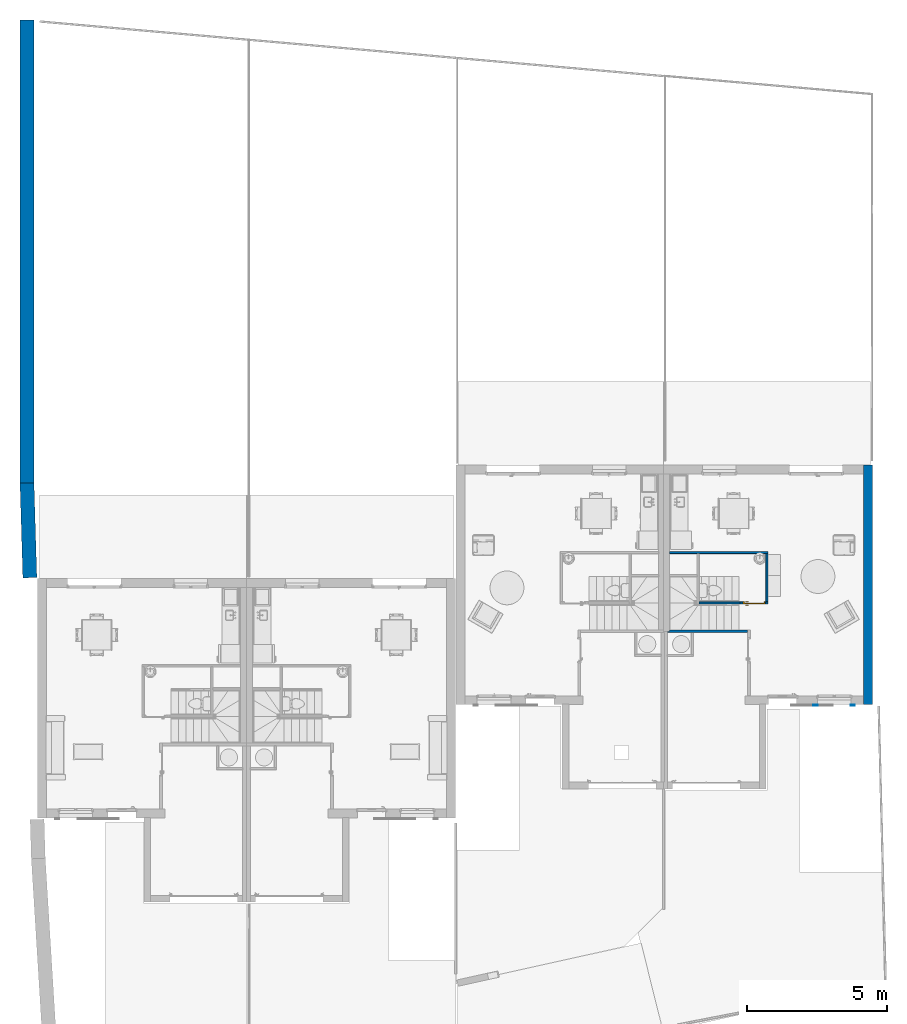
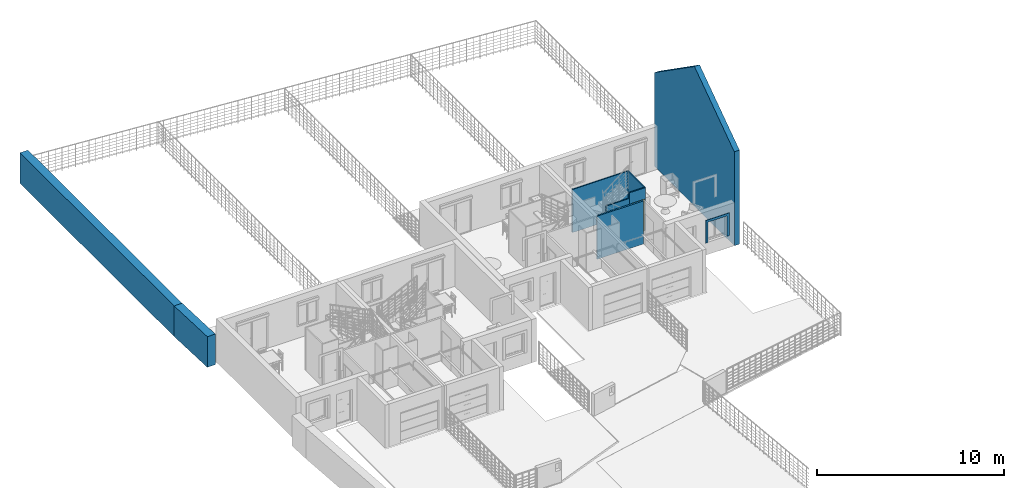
# One storey, part 21 of 30: 9 walls, 1 door, 2 openings.
"""IFC2X3 building model written with IfcOpenShell, lengths in metres."""

from ifc_helpers import new_model, entity, si_unit, converted_unit, derived_unit, direction, frame, frame_2d, origin, place, context, subcontext, project, spatial, polyline, rectangle, outline, extrude, clip, bounded_halfspace, faceted_brep, source, transform, mapped, material, material_list, layer, layer_set, layer_usage, type_object, type_shapes, element, fill, save


model = new_model("IFC2X3")

# Units and contexts
model_context = context("Model", 3, precision=1e-05, world=origin(), true_north=direction((6.12303176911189e-17, 1.0)))
body_context = subcontext(model_context, "Body", "Model", "MODEL_VIEW")
ifc_project = project(units=[si_unit("LENGTHUNIT", "METRE"), si_unit("AREAUNIT", "SQUARE_METRE"), si_unit("VOLUMEUNIT", "CUBIC_METRE"), converted_unit("PLANEANGLEUNIT", "DEGREE", entity("IfcRatioMeasure", 0.0174532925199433), si_unit("PLANEANGLEUNIT", "RADIAN"), dimensions=[0, 0, 0, 0, 0, 0, 0]), si_unit("MASSUNIT", "GRAM", prefix="KILO"), derived_unit("MASSDENSITYUNIT", [(si_unit("MASSUNIT", "GRAM", prefix="KILO"), 1), (si_unit("LENGTHUNIT", "METRE"), -3)]), si_unit("TIMEUNIT", "SECOND"), si_unit("FREQUENCYUNIT", "HERTZ"), si_unit("THERMODYNAMICTEMPERATUREUNIT", "DEGREE_CELSIUS"), derived_unit("THERMALTRANSMITTANCEUNIT", [(si_unit("MASSUNIT", "GRAM", prefix="KILO"), 1), (si_unit("THERMODYNAMICTEMPERATUREUNIT", "KELVIN"), -1), (si_unit("TIMEUNIT", "SECOND"), -3)]), derived_unit("VOLUMETRICFLOWRATEUNIT", [(si_unit("LENGTHUNIT", "METRE"), 3), (si_unit("TIMEUNIT", "SECOND"), -1)]), si_unit("ELECTRICCURRENTUNIT", "AMPERE"), si_unit("ELECTRICVOLTAGEUNIT", "VOLT"), si_unit("POWERUNIT", "WATT"), si_unit("FORCEUNIT", "NEWTON", prefix="KILO"), si_unit("ILLUMINANCEUNIT", "LUX"), si_unit("LUMINOUSFLUXUNIT", "LUMEN"), si_unit("LUMINOUSINTENSITYUNIT", "CANDELA"), derived_unit("USERDEFINED", [(si_unit("MASSUNIT", "GRAM", prefix="KILO"), -1), (si_unit("LENGTHUNIT", "METRE"), -2), (si_unit("TIMEUNIT", "SECOND"), 3), (si_unit("LUMINOUSFLUXUNIT", "LUMEN"), 1)]), derived_unit("LINEARVELOCITYUNIT", [(si_unit("LENGTHUNIT", "METRE"), 1), (si_unit("TIMEUNIT", "SECOND"), -1)]), si_unit("PRESSUREUNIT", "PASCAL"), derived_unit("USERDEFINED", [(si_unit("LENGTHUNIT", "METRE"), -2), (si_unit("MASSUNIT", "GRAM", prefix="KILO"), 1), (si_unit("TIMEUNIT", "SECOND"), -2)])], contexts=[model_context])

# Site, building, storey
site_placement = place(None, origin())
site = spatial("IfcSite", under=ifc_project, at=site_placement, Name="Surface", CompositionType="ELEMENT")
building_placement = place(site_placement, origin())
building = spatial("IfcBuilding", under=site, at=building_placement, CompositionType="ELEMENT")
storey_placement = place(building_placement, origin())
storey = spatial("IfcBuildingStorey", under=building, at=storey_placement, Name="Plan des fondations  Maisons 1 et 2", CompositionType="ELEMENT", Elevation=0.0)

# Walls
ifc_material_1 = material(Name="Enduit blanc cassé2")
ifc_layer_1 = layer(ifc_material_1, 0.02)
ifc_material_2 = material(Name="Parpaing")
ifc_layer_2 = layer(ifc_material_2, 0.2)
ifc_material_3 = material(Name="Isolant")
ifc_layer_3 = layer(ifc_material_3, 0.1)
ifc_layer_set_1 = layer_set([ifc_layer_1, ifc_layer_2, ifc_layer_3], Name="Mur de base:Ext. Parpaing 20 + Isolant 10 enduit blanc cassé")
ifc_layer_usage_1 = layer_usage(ifc_layer_set_1, "AXIS2", "POSITIVE", -0.16)
wall_type_1 = type_object("IfcWallType", Name="Mur de base:Ext. Parpaing 20 + Isolant 10 enduit blanc cassé", PredefinedType="STANDARD", material=ifc_layer_set_1)
wall_1_placement = place(building_placement, frame((90.9950487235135, 83.9275239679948, 0.0), z_axis=(0.0, 0.0, 1.0), x_axis=(0.0, 1.0, 0.0)))
element("IfcWallStandardCase", 1, at=wall_1_placement, inside=storey, type_object=wall_type_1, material=ifc_layer_usage_1, Name="Mur de base:Ext. Parpaing 20 + Isolant 10 enduit blanc cassé", ObjectType="Mur de base:Ext. Parpaing 20 + Isolant 10 enduit blanc cassé", context=body_context, shape_type="Clipping", body=[
    clip(clip(extrude(rectangle(XDim=8.54, YDim=0.319999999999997, at=frame_2d((4.27, 9.85322934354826e-16), x_axis=(-1.0, 0.0))), origin(), (0.0, 0.0, 1.0), 9.12988618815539), bounded_halfspace(frame((4.26999999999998, -0.15999999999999, 9.12988618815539), z_axis=(0.573576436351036, 0.0, 0.819152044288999), x_axis=(0.0, 1.0, 0.0)), False, frame((4.26999999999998, -0.15999999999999, 9.12988618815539)), polyline([(0.0, 0.0), (4.27000000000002, 0.0), (4.27000000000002, 0.319999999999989), (3.95000000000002, 0.319999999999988), (0.0, 0.319999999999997), (0.0, 0.0)]))), bounded_halfspace(frame((0.0, -0.159999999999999, 6.13999999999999), z_axis=(-0.573576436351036, 0.0, 0.819152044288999), x_axis=(0.0, -1.0, 0.0)), False, frame((0.0, -0.159999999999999, 6.13999999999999)), polyline([(0.0, 0.0), (4.26999999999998, 0.0), (4.26999999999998, 0.320000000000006), (0.0, 0.319999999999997), (0.0, 0.0)]))),
])
ifc_material_4 = material(Name="Peinture - Blanc")
ifc_layer_4 = layer(ifc_material_4, 0.1)
ifc_layer_set_2 = layer_set([ifc_layer_4], Name="Mur de base:Int.  Platre 100 mm en blanc 2")
ifc_layer_usage_2 = layer_usage(ifc_layer_set_2, "AXIS2", "NEGATIVE", 0.05)
wall_type_2 = type_object("IfcWallType", Name="Mur de base:Int.  Platre 100 mm en blanc 2", PredefinedType="STANDARD", material=ifc_layer_set_2)
wall_2_placement = place(building_placement, frame((86.7067857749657, 86.5475239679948, 0.0), z_axis=(0.0, 0.0, 1.0), x_axis=(-1.0, 0.0, 0.0)))
element("IfcWallStandardCase", 2, at=wall_2_placement, inside=storey, type_object=wall_type_2, material=ifc_layer_usage_2, Name="Mur de base:Int.  Platre 100 mm en blanc 2", ObjectType="Mur de base:Int.  Platre 100 mm en blanc 2", context=body_context, shape_type="SweptSolid", body=[
    extrude(outline(polyline([(2.78000000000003, -0.0499999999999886), (2.78000000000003, 0.0), (2.86500000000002, 0.0), (2.86500000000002, 0.050000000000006), (2.00500000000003, 0.050000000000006), (1.93500000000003, 0.050000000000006), (0.0, 0.050000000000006), (0.0, -0.0499999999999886), (2.78000000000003, -0.0499999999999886)])), origin(), (0.0, 0.0, 1.0), 2.82),
])
ifc_layer_5 = layer(ifc_material_4, 0.07)
ifc_layer_set_3 = layer_set([ifc_layer_5], Name="Mur de base:Int.  Platre 70 mm en blanc")
ifc_layer_usage_3 = layer_usage(ifc_layer_set_3, "AXIS2", "NEGATIVE", 0.035)
wall_type_3 = type_object("IfcWallType", Name="Mur de base:Int.  Platre 70 mm en blanc", PredefinedType="STANDARD", material=ifc_layer_set_3)
wall_3_placement = place(storey_placement, frame((83.9267857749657, 89.3525239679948, 0.0)))
element("IfcWallStandardCase", 3, at=wall_3_placement, inside=storey, type_object=wall_type_3, material=ifc_layer_usage_3, Name="Mur de base:Int.  Platre 70 mm en blanc", ObjectType="Mur de base:Int.  Platre 70 mm en blanc", context=body_context, shape_type="SweptSolid", body=[
    extrude(rectangle(XDim=3.50211659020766, YDim=0.0699999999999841, at=frame_2d((1.75105829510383, 7.45931094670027e-16), x_axis=(-1.0, 0.0))), origin(), (0.0, 0.0, 1.0), 2.82),
])
ifc_layer_usage_4 = layer_usage(ifc_layer_set_3, "AXIS2", "NEGATIVE", 0.035)
wall_4_placement = place(storey_placement, frame((87.3939023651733, 87.5943952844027, 0.0), z_axis=(0.0, 0.0, 1.0), x_axis=(0.0, 1.0, 0.0)))
element("IfcWallStandardCase", 4, at=wall_4_placement, inside=storey, type_object=wall_type_3, material=ifc_layer_usage_4, Name="Mur de base:Int.  Platre 70 mm en blanc", ObjectType="Mur de base:Int.  Platre 70 mm en blanc", context=body_context, shape_type="SweptSolid", body=[
    extrude(rectangle(XDim=1.72312868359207, YDim=0.0699999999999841, at=frame_2d((0.861564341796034, 0.0), x_axis=(-1.0, 0.0))), origin(), (0.0, 0.0, 1.0), 2.82),
])
ifc_layer_usage_5 = layer_usage(ifc_layer_set_3, "AXIS2", "NEGATIVE", 0.035)
wall_5_placement = place(storey_placement, frame((84.9767857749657, 87.5625239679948, 0.0)))
element("IfcWallStandardCase", 5, at=wall_5_placement, inside=storey, type_object=wall_type_3, material=ifc_layer_usage_5, Name="Mur de base:Int.  Platre 70 mm en blanc", ObjectType="Mur de base:Int.  Platre 70 mm en blanc", context=body_context, shape_type="SweptSolid", body=[
    extrude(rectangle(XDim=1.45171659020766, YDim=0.0699999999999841, at=frame_2d((0.725858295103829, 3.03576608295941e-15), x_axis=(-1.0, 0.0))), origin(), (0.0, 0.0, 1.0), 2.45350535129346),
])

# Wall, opening, door
ifc_layer_usage_6 = layer_usage(ifc_layer_set_3, "AXIS2", "NEGATIVE", 0.035)
wall_6_placement = place(storey_placement, frame((86.4385023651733, 87.5593952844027, 0.0)))
wall_6 = element("IfcWallStandardCase", 6, at=wall_6_placement, inside=storey, type_object=wall_type_3, material=ifc_layer_usage_6, Name="Mur de base:Int.  Platre 70 mm en blanc", ObjectType="Mur de base:Int.  Platre 70 mm en blanc", context=body_context, shape_type="SweptSolid", body=[
    extrude(rectangle(XDim=0.9904, YDim=0.0699999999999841, at=frame_2d((0.4952, 2.43208231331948e-15), x_axis=(-1.0, 0.0))), origin(), (0.0, 0.0, 1.0), 2.82),
])
opening_1_placement = place(wall_6_placement, frame((0.900399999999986, 0.035000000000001, 0.0)))
opening_1 = element("IfcOpeningElement", 7, at=opening_1_placement, cuts=wall_6, Name="FR_Simple (R):73 x 204 - (70):1", ObjectType="Opening", context=body_context, shape_type="SweptSolid", body=[
    extrude(rectangle(XDim=2.075, YDim=0.799999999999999, at=frame_2d((1.0375, 0.400000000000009), x_axis=(1.0, 0.0))), frame((0.0, 0.0, 0.0), z_axis=(0.0, -1.0, 0.0), x_axis=(0.0, 0.0, 1.0)), (0.0, 0.0, 1.0), 0.07),
])
ifc_material_5 = material(Name="Poignée Porte")
ifc_material_6 = material(Name="Dormants Portes")
ifc_material_7 = material(Name="Panneaux Portes")
ifc_material_list_1 = material_list([ifc_material_5, ifc_material_6, ifc_material_7])
ifc_material_list_2 = material_list([ifc_material_5, ifc_material_6, ifc_material_7])
door_style = type_object("IfcDoorStyle", Name="73 x 204 - (70)", ConstructionType="NOTDEFINED", OperationType="SINGLE_SWING_LEFT", ParameterTakesPrecedence=False, Sizeable=False, material=ifc_material_list_2)
shared_shape = source(origin(), body_context, "Body", "Brep", [
    faceted_brep([(0.100352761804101, -0.0130000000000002, 0.766003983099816), (0.11, -0.0130000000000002, 0.770000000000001), (0.11, -0.0130000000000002, 0.980000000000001), (0.100352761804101, -0.0130000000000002, 0.983996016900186), (0.0900000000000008, -0.0130000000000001, 0.985358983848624), (0.0796472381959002, -0.0130000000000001, 0.983996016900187), (0.0700000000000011, -0.0130000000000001, 0.980000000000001), (0.0700000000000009, -0.0130000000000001, 0.770000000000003), (0.0796472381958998, -0.0130000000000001, 0.766003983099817), (0.0900000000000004, -0.0130000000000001, 0.764641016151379), (0.100352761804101, -0.00800000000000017, 0.983996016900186), (0.11, -0.00800000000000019, 0.980000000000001), (0.11, -0.00800000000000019, 0.770000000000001), (0.100352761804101, -0.00800000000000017, 0.766003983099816), (0.0900000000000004, -0.00800000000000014, 0.764641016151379), (0.0796472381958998, -0.0080000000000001, 0.766003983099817), (0.0700000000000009, -0.00800000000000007, 0.770000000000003), (0.0700000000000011, -0.00800000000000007, 0.980000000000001), (0.0796472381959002, -0.0080000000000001, 0.983996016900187), (0.0900000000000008, -0.00800000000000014, 0.985358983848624)], [[[0, 1, 2, 3, 4, 5, 6, 7, 8, 9]], [[10, 11, 12, 13, 14, 15, 16, 17, 18, 19]], [[16, 15, 8, 7]], [[8, 15, 14, 9]], [[14, 13, 0, 9]], [[13, 12, 1, 0]], [[2, 1, 12, 11]], [[11, 10, 3, 2]], [[3, 10, 19, 4]], [[19, 18, 5, 4]], [[18, 17, 6, 5]], [[7, 6, 17, 16]]]),
    faceted_brep([(0.100352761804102, 0.0319999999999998, 0.766003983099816), (0.110000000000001, 0.0319999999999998, 0.770000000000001), (0.11, 0.0319999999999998, 0.980000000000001), (0.100352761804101, 0.0319999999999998, 0.983996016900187), (0.0900000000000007, 0.0319999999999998, 0.985358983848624), (0.0796472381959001, 0.0319999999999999, 0.983996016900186), (0.0700000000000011, 0.0319999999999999, 0.980000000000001), (0.0700000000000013, 0.0319999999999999, 0.770000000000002), (0.0796472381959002, 0.0319999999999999, 0.766003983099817), (0.0900000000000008, 0.0319999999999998, 0.764641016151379), (0.100352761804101, 0.0369999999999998, 0.983996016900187), (0.11, 0.0369999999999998, 0.980000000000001), (0.110000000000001, 0.0369999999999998, 0.770000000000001), (0.100352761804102, 0.0369999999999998, 0.766003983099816), (0.0900000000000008, 0.0369999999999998, 0.764641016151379), (0.0796472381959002, 0.0369999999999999, 0.766003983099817), (0.0700000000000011, 0.0369999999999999, 0.770000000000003), (0.0700000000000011, 0.0369999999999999, 0.980000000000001), (0.0796472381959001, 0.0369999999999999, 0.983996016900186), (0.0900000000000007, 0.0369999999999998, 0.985358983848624)], [[[0, 1, 2, 3, 4, 5, 6, 7, 8, 9]], [[10, 11, 12, 13, 14, 15, 16, 17, 18, 19]], [[11, 10, 3, 2]], [[3, 10, 19, 4]], [[19, 18, 5, 4]], [[18, 17, 6, 5]], [[7, 6, 17, 16]], [[16, 15, 8, 7]], [[8, 15, 14, 9]], [[14, 13, 0, 9]], [[13, 12, 1, 0]], [[2, 1, 12, 11]]]),
    faceted_brep([(0.0879747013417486, -0.0130000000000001, 0.907780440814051), (0.0920252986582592, -0.0130000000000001, 0.907780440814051), (0.0960000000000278, -0.0130000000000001, 0.906999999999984), (0.0960000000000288, -0.0130000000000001, 0.893000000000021), (0.0920252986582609, -0.0130000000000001, 0.89221955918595), (0.0879747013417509, -0.0130000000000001, 0.892219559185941), (0.0839999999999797, -0.0130000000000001, 0.892999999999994), (0.0839999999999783, -0.0130000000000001, 0.90699999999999), (0.083999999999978, -0.0406509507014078, 0.906999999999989), (0.0879747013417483, -0.0390045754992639, 0.907780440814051), (0.104023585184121, -0.0550534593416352, 0.907780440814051), (0.105701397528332, -0.0510028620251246, 0.907780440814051), (0.0920252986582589, -0.0373267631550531, 0.907780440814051), (0.198521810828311, -0.0473891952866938, 0.90778044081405), (0.195657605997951, -0.0445249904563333, 0.90778044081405), (0.18917973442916, -0.0510028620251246, 0.90778044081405), (0.190857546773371, -0.0550534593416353, 0.90778044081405), (0.0960000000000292, -0.0356803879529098, 0.90699999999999), (0.0960000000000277, -0.0356803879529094, 0.893000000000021), (0.0920252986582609, -0.0373267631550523, 0.89221955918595), (0.105701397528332, -0.0510028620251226, 0.89221955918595), (0.104023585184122, -0.0550534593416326, 0.89221955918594), (0.0879747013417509, -0.0390045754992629, 0.89221955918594), (0.195657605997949, -0.044524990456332, 0.89221955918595), (0.19852181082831, -0.0473891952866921, 0.89221955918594), (0.19085754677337, -0.0550534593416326, 0.89221955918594), (0.18917973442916, -0.0510028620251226, 0.89221955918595), (0.0839999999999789, -0.0406509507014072, 0.892999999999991), (0.102377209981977, -0.0590281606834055, 0.906999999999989), (0.107347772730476, -0.0470281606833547, 0.90699999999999), (0.107347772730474, -0.0470281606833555, 0.893000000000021), (0.102377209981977, -0.0590281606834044, 0.892999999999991), (0.142307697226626, -0.0590281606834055, 0.906999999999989), (0.147440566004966, -0.053182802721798, 0.907878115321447), (0.192503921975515, -0.0590281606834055, 0.906999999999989), (0.147440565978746, -0.0470281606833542, 0.90699999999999), (0.187533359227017, -0.0470281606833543, 0.906999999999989), (0.187533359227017, -0.0470281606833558, 0.89300000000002), (0.147440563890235, -0.0470281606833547, 0.893000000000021), (0.147440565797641, -0.0531828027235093, 0.892121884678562), (0.192503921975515, -0.0590281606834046, 0.892999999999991), (0.152573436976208, -0.0590281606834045, 0.892999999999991), (0.192847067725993, -0.0417144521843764, 0.906999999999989), (0.201332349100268, -0.0501997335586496, 0.906999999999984), (0.201332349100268, -0.05019973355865, 0.892999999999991), (0.192847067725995, -0.0417144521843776, 0.893000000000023)], [[[0, 1, 2, 3, 4, 5, 6, 7]], [[8, 9, 0, 7]], [[9, 10, 11, 12, 1, 0]], [[13, 14, 15, 16]], [[12, 17, 2, 1]], [[3, 2, 17, 18]], [[18, 19, 4, 3]], [[19, 20, 21, 22, 5, 4]], [[23, 24, 25, 26]], [[22, 27, 6, 5]], [[7, 6, 27, 8]], [[28, 10, 9, 8]], [[11, 29, 17, 12]], [[18, 17, 29, 30]], [[30, 20, 19, 18]], [[21, 31, 27, 22]], [[8, 27, 31, 28]], [[32, 33, 10]], [[33, 32, 16]], [[10, 28, 32]], [[34, 16, 32]], [[33, 35, 11]], [[11, 10, 33]], [[15, 35, 33]], [[29, 11, 35]], [[35, 15, 36]], [[15, 33, 16]], [[30, 29, 35, 36, 37, 38]], [[20, 38, 39]], [[25, 40, 41]], [[31, 21, 41]], [[41, 21, 39]], [[39, 38, 26]], [[26, 25, 39]], [[38, 20, 30]], [[37, 26, 38]], [[20, 39, 21]], [[41, 39, 25]], [[28, 31, 41, 40, 34, 32]], [[42, 14, 13, 43, 44, 24, 23, 45]], [[43, 13, 16, 34]], [[14, 42, 36, 15]], [[37, 36, 42, 45]], [[45, 23, 26, 37]], [[24, 44, 40, 25]], [[34, 40, 44, 43]]]),
    faceted_brep([(0.0879747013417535, 0.0369999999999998, 0.892219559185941), (0.092025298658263, 0.0369999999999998, 0.892219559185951), (0.0960000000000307, 0.0369999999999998, 0.893000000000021), (0.096000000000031, 0.0369999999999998, 0.90699999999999), (0.0920252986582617, 0.0369999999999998, 0.907780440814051), (0.0879747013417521, 0.0369999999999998, 0.907780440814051), (0.0839999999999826, 0.0369999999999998, 0.90699999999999), (0.0839999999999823, 0.0369999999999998, 0.892999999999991), (0.0960000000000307, 0.0594852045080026, 0.893000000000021), (0.0960000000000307, 0.0594852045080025, 0.90699999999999), (0.092025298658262, 0.0611315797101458, 0.907780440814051), (0.105838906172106, 0.0749451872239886, 0.907780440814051), (0.104161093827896, 0.0789957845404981, 0.907780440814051), (0.0879747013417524, 0.0628093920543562, 0.907780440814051), (0.195684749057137, 0.0684673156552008, 0.907780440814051), (0.198548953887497, 0.071331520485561, 0.907780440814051), (0.190884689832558, 0.0789957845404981, 0.907780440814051), (0.189206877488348, 0.0749451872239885, 0.907780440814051), (0.0839999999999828, 0.0644557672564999, 0.90699999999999), (0.0839999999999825, 0.0644557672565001, 0.892999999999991), (0.0879747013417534, 0.0628093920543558, 0.892219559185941), (0.104161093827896, 0.0789957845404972, 0.892219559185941), (0.105838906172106, 0.0749451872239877, 0.892219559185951), (0.0920252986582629, 0.0611315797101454, 0.892219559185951), (0.198548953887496, 0.07133152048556, 0.89221955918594), (0.195684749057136, 0.0684673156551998, 0.89221955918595), (0.189206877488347, 0.0749451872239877, 0.89221955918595), (0.190884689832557, 0.0789957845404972, 0.89221955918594), (0.107485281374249, 0.0709704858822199, 0.893000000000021), (0.107485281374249, 0.0709704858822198, 0.90699999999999), (0.102514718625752, 0.0829704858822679, 0.90699999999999), (0.102514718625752, 0.0829704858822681, 0.892999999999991), (0.147522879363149, 0.0709704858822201, 0.89300000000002), (0.187560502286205, 0.0709704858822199, 0.89300000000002), (0.187560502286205, 0.0709704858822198, 0.90699999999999), (0.147522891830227, 0.0709704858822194, 0.90699999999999), (0.147522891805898, 0.0771249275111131, 0.907878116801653), (0.192531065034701, 0.0829704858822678, 0.90699999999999), (0.152600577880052, 0.0829704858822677, 0.90699999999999), (0.192531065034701, 0.082970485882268, 0.892999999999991), (0.142445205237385, 0.0829704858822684, 0.892999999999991), (0.147522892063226, 0.0771249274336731, 0.892121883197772), (0.192874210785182, 0.0656567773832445, 0.89300000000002), (0.201359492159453, 0.0741420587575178, 0.892999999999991), (0.201359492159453, 0.0741420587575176, 0.90699999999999), (0.192874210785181, 0.0656567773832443, 0.90699999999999)], [[[0, 1, 2, 3, 4, 5, 6, 7]], [[3, 2, 8, 9]], [[9, 10, 4, 3]], [[10, 11, 12, 13, 5, 4]], [[14, 15, 16, 17]], [[13, 18, 6, 5]], [[7, 6, 18, 19]], [[19, 20, 0, 7]], [[20, 21, 22, 23, 1, 0]], [[24, 25, 26, 27]], [[23, 8, 2, 1]], [[9, 8, 28, 29]], [[29, 11, 10, 9]], [[12, 30, 18, 13]], [[19, 18, 30, 31]], [[31, 21, 20, 19]], [[22, 28, 8, 23]], [[28, 32, 33, 34, 35, 29]], [[11, 35, 36]], [[16, 37, 38]], [[30, 12, 38]], [[38, 12, 36]], [[36, 35, 17]], [[17, 16, 36]], [[35, 11, 29]], [[34, 17, 35]], [[11, 36, 12]], [[38, 36, 16]], [[31, 30, 38, 37, 39, 40]], [[40, 41, 21]], [[41, 40, 27]], [[21, 31, 40]], [[39, 27, 40]], [[41, 32, 22]], [[22, 21, 41]], [[26, 32, 41]], [[28, 22, 32]], [[32, 26, 33]], [[26, 41, 27]], [[42, 25, 24, 43, 44, 15, 14, 45]], [[34, 33, 42, 45]], [[45, 14, 17, 34]], [[15, 44, 37, 16]], [[39, 37, 44, 43]], [[43, 24, 27, 39]], [[25, 42, 33, 26]]]),
    faceted_brep([(0.0, 0.0, 0.0), (0.0, 0.0700000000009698, 0.0), (-0.00999999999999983, 0.0700000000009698, 0.0), (-0.00999999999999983, 0.0780000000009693, 0.0), (0.0499999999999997, 0.0780000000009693, 0.0), (0.0499999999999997, 0.032, 0.0), (0.0350000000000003, 0.032, 0.0), (0.0350000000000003, -0.00799999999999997, 0.0), (-0.00999999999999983, -0.00799999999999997, 0.0), (-0.00999999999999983, 0.0, 0.0), (0.0, 0.0, 2.075), (0.0, 0.0700000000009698, 2.075), (0.799999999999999, 0.0700000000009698, 2.075), (0.799999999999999, 0.0700000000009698, 0.0), (0.809999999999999, 0.0700000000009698, 0.0), (0.809999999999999, 0.0700000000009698, 2.085), (-0.00999999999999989, 0.0700000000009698, 2.085), (-0.00999999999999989, 0.0780000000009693, 2.085), (0.809999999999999, 0.0780000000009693, 2.085), (0.809999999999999, 0.0780000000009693, 0.0), (0.75, 0.0780000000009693, 0.0), (0.75, 0.0780000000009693, 2.025), (0.0499999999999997, 0.0780000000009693, 2.025), (0.0499999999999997, 0.032, 2.025), (0.75, 0.032, 2.025), (0.75, 0.032, 0.0), (0.764999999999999, 0.032, 0.0), (0.764999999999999, 0.032, 2.04), (0.0350000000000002, 0.032, 2.04), (0.0350000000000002, -0.00799999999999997, 2.04), (0.764999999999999, -0.00799999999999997, 2.04), (0.764999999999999, -0.00799999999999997, 0.0), (0.809999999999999, -0.00799999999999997, 0.0), (0.809999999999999, -0.00799999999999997, 2.085), (-0.00999999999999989, -0.00799999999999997, 2.085), (-0.00999999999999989, 0.0, 2.085), (0.809999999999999, 0.0, 2.085), (0.809999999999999, 0.0, 0.0), (0.799999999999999, 0.0, 0.0), (0.799999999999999, 0.0, 2.075)], [[[0, 1, 2, 3, 4, 5, 6, 7, 8, 9]], [[1, 0, 10, 11]], [[2, 1, 11, 12, 13, 14, 15, 16]], [[3, 2, 16, 17]], [[4, 3, 17, 18, 19, 20, 21, 22]], [[5, 4, 22, 23]], [[6, 5, 23, 24, 25, 26, 27, 28]], [[7, 6, 28, 29]], [[8, 7, 29, 30, 31, 32, 33, 34]], [[9, 8, 34, 35]], [[0, 9, 35, 36, 37, 38, 39, 10]], [[11, 10, 39, 12]], [[17, 16, 15, 18]], [[23, 22, 21, 24]], [[29, 28, 27, 30]], [[35, 34, 33, 36]], [[38, 37, 32, 31, 26, 25, 20, 19, 14, 13]], [[12, 39, 38, 13]], [[18, 15, 14, 19]], [[24, 21, 20, 25]], [[30, 27, 26, 31]], [[36, 33, 32, 37]]]),
    faceted_brep([(0.0350000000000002, -0.00799999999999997, 2.04), (0.0350000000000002, -0.00799999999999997, 0.0), (0.764999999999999, -0.00799999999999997, 0.0), (0.764999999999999, -0.00799999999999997, 2.04), (0.0350000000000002, 0.032, 2.04), (0.764999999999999, 0.032, 2.04), (0.764999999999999, 0.032, 0.0), (0.0350000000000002, 0.032, 0.0)], [[[0, 1, 2, 3]], [[4, 5, 6, 7]], [[1, 0, 4, 7]], [[2, 1, 7, 6]], [[3, 2, 6, 5]], [[0, 3, 5, 4]]]),
])
type_shapes(door_style, [shared_shape])
door_placement = place(opening_1_placement, frame((-0.800000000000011, -0.069999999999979, 0.0)))
door = element("IfcDoor", 8, at=door_placement, inside=storey, type_object=door_style, material=ifc_material_list_1, Name="FR_Simple (R):73 x 204 - (70)", ObjectType="FR_Simple (R):73 x 204 - (70)", OverallHeight=2.075, OverallWidth=0.800000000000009, context=body_context, shape_type="MappedRepresentation", body=[
    mapped(shared_shape, transform((0.0, 0.0, 0.0), scale=1.0)),
])
fill(opening_1, door)

# Wall, opening
ifc_material_8 = material(Name="Enduit blanc cassé")
ifc_layer_6 = layer(ifc_material_8, 0.01)
ifc_layer_7 = layer(ifc_material_2, 0.01)
ifc_layer_8 = layer(ifc_material_8, 0.01)
ifc_layer_set_4 = layer_set([ifc_layer_6, ifc_layer_7, ifc_layer_8], Name="Mur de base:modénateurs ep 2 cm gris")
ifc_layer_usage_7 = layer_usage(ifc_layer_set_4, "AXIS2", "NEGATIVE", 0.015)
wall_type_4 = type_object("IfcWallType", Name="Mur de base:modénateurs ep 2 cm gris", PredefinedType="STANDARD", material=ifc_layer_set_4)
wall_7_placement = place(building_placement, frame((89.0500487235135, 83.9075239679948, 0.799999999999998)))
wall_7 = element("IfcWallStandardCase", 9, at=wall_7_placement, inside=storey, type_object=wall_type_4, material=ifc_layer_usage_7, Name="Mur de base:modénateurs ep 2 cm gris", ObjectType="Mur de base:modénateurs ep 2 cm gris", context=body_context, shape_type="SweptSolid", body=[
    extrude(rectangle(XDim=1.47499999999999, YDim=0.0299999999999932, at=frame_2d((0.737499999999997, 0.0), x_axis=(-1.0, 0.0))), origin(), (0.0, 0.0, 1.0), 1.48912543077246),
])
opening_2_placement = place(wall_7_placement, origin())
element("IfcOpeningElement", 10, at=opening_2_placement, cuts=wall_7, Name="Mur de base:modénateurs ep 2 cm gris", ObjectType="Opening", context=body_context, shape_type="SweptSolid", body=[
    extrude(rectangle(XDim=1.33912543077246, YDim=1.17499999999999, at=frame_2d((0.0, 0.0), x_axis=(0.0, 1.0))), frame((0.737499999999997, 0.0149999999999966, 0.669562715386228), z_axis=(0.0, -1.0, 0.0), x_axis=(1.0, 0.0, 0.0)), (0.0, 0.0, 1.0), 0.03),
])

# Walls
ifc_material_9 = material(Name="Mur par défaut")
ifc_layer_9 = layer(ifc_material_9, 0.5)
ifc_layer_set_5 = layer_set([ifc_layer_9], Name="Mur de base:Mur exterieure en pierre - Ext. 500 MM")
ifc_layer_usage_8 = layer_usage(ifc_layer_set_5, "AXIS2", "NEGATIVE", 0.25)
wall_type_5 = type_object("IfcWallType", Name="Mur de base:Mur exterieure en pierre - Ext. 500 MM", PredefinedType="STANDARD", material=ifc_layer_set_5)
wall_8_placement = place(building_placement, frame((61.0079488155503, 108.344056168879, -0.2), z_axis=(0.0, 0.0, 1.0), x_axis=(0.0, -1.0, 0.0)))
element("IfcWallStandardCase", 11, at=wall_8_placement, inside=storey, type_object=wall_type_5, material=ifc_layer_usage_8, Name="Mur de base:Mur exterieure en pierre - Ext. 500 MM", ObjectType="Mur de base:Mur exterieure en pierre - Ext. 500 MM", context=body_context, shape_type="SweptSolid", body=[
    extrude(outline(polyline([(16.5124224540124, -0.249999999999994), (16.504909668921, 0.250000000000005), (0.0, 0.250000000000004), (0.0, -0.249999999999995), (16.5124224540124, -0.249999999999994)])), origin(), (0.0, 0.0, 1.0), 2.0),
])
ifc_layer_usage_9 = layer_usage(ifc_layer_set_5, "AXIS2", "NEGATIVE", 0.25)
wall_9_placement = place(storey_placement, frame((61.0078359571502, 91.8391448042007, -0.2), z_axis=(0.0, 0.0, 1.0), x_axis=(0.0300443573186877, -0.999548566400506, 0.0)))
element("IfcWallStandardCase", 12, at=wall_9_placement, inside=storey, type_object=wall_type_5, material=ifc_layer_usage_9, Name="Mur de base:Mur exterieure en pierre - Ext. 500 MM", ObjectType="Mur de base:Mur exterieure en pierre - Ext. 500 MM", context=body_context, shape_type="SweptSolid", body=[
    extrude(outline(polyline([(3.38375639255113, -0.24999999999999), (3.38375639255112, 0.250000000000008), (0.00751278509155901, 0.250000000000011), (0.0, -0.249999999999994), (3.38375639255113, -0.24999999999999)])), origin(), (0.0, 0.0, 1.0), 2.0),
])

save(model, "model.ifc")
